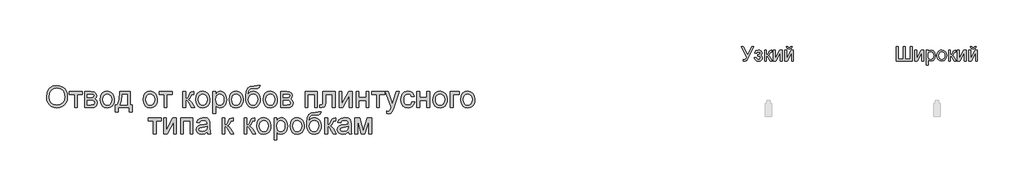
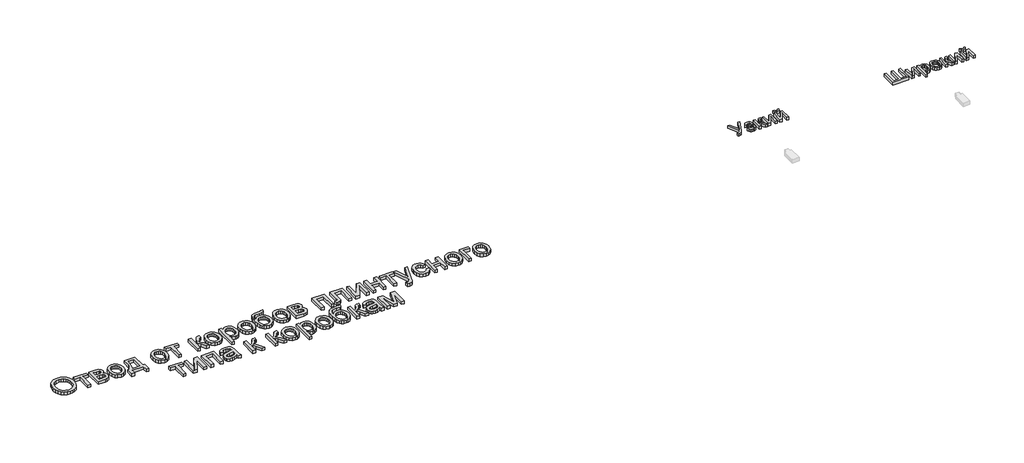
# One storey, part 7 of 48: 3 proxies.
"""IFC4 building model written with IfcOpenShell, lengths in millimetres."""

from ifc_helpers import new_model, si_unit, origin, origin_with_axes, place, context, project, spatial, polyline, outline, extrude, element, save

model = new_model("IFC4")

# Units and contexts
model_context = context("Model", 3, world=origin())
ifc_project = project(units=[si_unit("LENGTHUNIT", "METRE", prefix="MILLI")], contexts=[model_context])

# Site, building, storey
site = spatial("IfcSite", under=ifc_project)
building = spatial("IfcBuilding", under=site)
storey = spatial("IfcBuildingStorey", under=building, Name="Этаж 01", Elevation=0.0)

# Proxies
placement = place(None, origin())
element("IfcBuildingElementProxy", 1, Name="150 мм Arial", ObjectType="150 мм Arial", at=placement, inside=storey, context=model_context, shape_type="SweptSolid", body=[
    extrude(outline(polyline([(7968.3957636, -26394.3993288), (7973.4173528, -26361.0784171), (7979.6943393, -26347.4598854), (7988.4821205, -26335.8693033), (8011.4839422, -26320.0043923), (8040.3166936, -26314.7160886), (8060.0811538, -26317.1992921), (8077.8038689, -26324.6489025), (8092.5191487, -26336.540688), (8103.261303, -26352.3504167), (8109.8279966, -26371.3147336), (8112.0168945, -26392.6702834), (8109.7130335, -26414.3109418), (8102.8014505, -26433.5419731), (8091.6638231, -26449.379293), (8076.6818288, -26460.8388171), (8059.110865, -26467.7917868), (8040.206329, -26470.1094434), (8020.1383662, -26467.548065), (8002.3144835, -26459.8639298), (7987.6359919, -26447.7514151), (7977.0042022, -26431.9048982), (7970.5478732, -26413.6717468), (7968.3957636, -26394.3993288)]), holes=[polyline([(7987.2313217, -26394.5832698), (7990.9975136, -26418.1553086), (8002.2960894, -26436.117147), (8019.278442, -26447.4847007), (8040.0959644, -26451.2738852), (8061.2169895, -26447.4479125), (8078.2269332, -26435.9699942), (8089.4427355, -26417.4563328), (8093.1813363, -26392.5231306), (8091.5810496, -26375.8488792), (8086.7801896, -26361.437102), (8078.9029164, -26349.6510826), (8068.0733901, -26340.8541044), (8055.0089808, -26335.3772612), (8040.4270582, -26333.5516468), (8020.1659573, -26337.0695183), (8002.9398829, -26347.6231331), (7991.158462, -26366.3989104), (7987.2313217, -26394.5832698)])]), origin_with_axes(), (0.0, 0.0, 1.0), 20.0),
    extrude(outline(polyline([(8126.1435631, -26357.0960945), (8215.6124643, -26357.0960945), (8215.6124643, -26375.9316526), (8180.2957928, -26375.9316526), (8180.2957928, -26467.7549986), (8161.4602346, -26467.7549986), (8161.4602346, -26375.9316526), (8126.1435631, -26375.9316526), (8126.1435631, -26357.0960945)])), origin_with_axes(), (0.0, 0.0, 1.0), 20.0),
    extrude(outline(polyline([(8232.0935777, -26357.0960945), (8273.5906668, -26357.0960945), (8296.3441682, -26359.6160861), (8309.1464616, -26368.8499242), (8314.4991446, -26384.9447615), (8311.2617831, -26398.0229664), (8301.5129102, -26407.348775), (8314.1680508, -26417.5575004), (8319.2080342, -26435.3078066), (8316.0166578, -26449.6644015), (8308.4290917, -26459.7719593), (8296.4177446, -26465.7592388), (8279.9550253, -26467.7549986), (8232.0935777, -26467.7549986), (8232.0935777, -26357.0960945)]), holes=[polyline([(8250.9291359, -26448.9194405), (8274.0321251, -26448.9194405), (8294.5231523, -26445.516532), (8298.7629923, -26440.8766203), (8300.372476, -26433.7627023), (8297.1535085, -26424.6944111), (8288.7657991, -26419.4153044), (8272.1927152, -26418.3116585), (8250.9291359, -26418.3116585), (8250.9291359, -26448.9194405)]), polyline([(8250.9291359, -26399.4761003), (8269.5439648, -26399.4761003), (8284.9030381, -26398.5196071), (8292.3710426, -26394.6936344), (8295.6635865, -26387.7774529), (8294.2196496, -26382.1580554), (8289.8878391, -26378.5436148), (8270.132576, -26375.9316526), (8250.9291359, -26375.9316526), (8250.9291359, -26399.4761003)])]), origin_with_axes(), (0.0, 0.0, 1.0), 20.0),
    extrude(outline(polyline([(8338.0435923, -26412.4255465), (8342.1178854, -26385.7449048), (8354.3407647, -26366.9921201), (8369.4423206, -26357.8042673), (8387.5237207, -26354.7416497), (8407.3111735, -26358.4710534), (8423.1163037, -26369.6592646), (8433.4767804, -26387.4233664), (8436.9302726, -26410.8804422), (8435.4035623, -26429.9091384), (8430.8234315, -26444.3944919), (8423.3232373, -26455.2424122), (8413.036337, -26463.3588088), (8400.8180563, -26468.4217847), (8387.5237207, -26470.1094434), (8367.4971445, -26466.3938352), (8351.7104084, -26455.2470108), (8341.4602963, -26437.1104284), (8338.0435923, -26412.4255465)]), holes=[polyline([(8356.8791505, -26412.3887583), (8359.0588513, -26429.4354903), (8365.5979537, -26441.5801947), (8375.4387971, -26448.8504626), (8387.5237207, -26451.2738852), (8399.5534619, -26448.836667), (8409.3759112, -26441.5250124), (8415.9150136, -26429.2193596), (8418.0947145, -26411.8001471), (8415.9012181, -26395.2500559), (8409.3207289, -26383.2708984), (8399.484484, -26376.0006305), (8387.5237207, -26373.5772078), (8375.4387971, -26375.9914334), (8365.5979537, -26383.2341102), (8359.0588513, -26395.3512234), (8356.8791505, -26412.3887583)])]), origin_with_axes(), (0.0, 0.0, 1.0), 20.0),
    extrude(outline(polyline([(8474.6013889, -26357.0960945), (8545.234732, -26357.0960945), (8545.234732, -26448.9194405), (8559.3614006, -26448.9194405), (8559.3614006, -26498.3627806), (8540.5258425, -26498.3627806), (8540.5258425, -26467.7549986), (8462.8291651, -26467.7549986), (8462.8291651, -26498.3627806), (8443.9936069, -26498.3627806), (8443.9936069, -26448.9194405), (8455.7658308, -26448.9194405), (8464.3236857, -26433.4546011), (8470.3155637, -26412.9957636), (8474.6013889, -26357.0960945)]), holes=[polyline([(8491.0825023, -26375.9316526), (8486.6679184, -26418.8450874), (8476.9558337, -26448.9194405), (8526.3991738, -26448.9194405), (8526.3991738, -26375.9316526), (8491.0825023, -26375.9316526)])]), origin_with_axes(), (0.0, 0.0, 1.0), 20.0),
    extrude(outline(polyline([(8634.7036332, -26412.4255465), (8638.7779263, -26385.7449048), (8651.0008056, -26366.9921201), (8666.1023615, -26357.8042673), (8684.1837616, -26354.7416497), (8703.9712144, -26358.4710534), (8719.7763446, -26369.6592646), (8730.1368213, -26387.4233664), (8733.5903135, -26410.8804422), (8732.0636032, -26429.9091384), (8727.4834724, -26444.3944919), (8719.9832782, -26455.2424122), (8709.6963779, -26463.3588088), (8697.4780972, -26468.4217847), (8684.1837616, -26470.1094434), (8664.1571855, -26466.3938352), (8648.3704493, -26455.2470108), (8638.1203373, -26437.1104284), (8634.7036332, -26412.4255465)]), holes=[polyline([(8653.5391914, -26412.3887583), (8655.7188922, -26429.4354903), (8662.2579947, -26441.5801947), (8672.098838, -26448.8504626), (8684.1837616, -26451.2738852), (8696.2135028, -26448.836667), (8706.0359521, -26441.5250124), (8712.5750545, -26429.2193596), (8714.7547554, -26411.8001471), (8712.561259, -26395.2500559), (8705.9807698, -26383.2708984), (8696.1445249, -26376.0006305), (8684.1837616, -26373.5772078), (8672.098838, -26375.9914334), (8662.2579947, -26383.2341102), (8655.7188922, -26395.3512234), (8653.5391914, -26412.3887583)])]), origin_with_axes(), (0.0, 0.0, 1.0), 20.0),
    extrude(outline(polyline([(8745.3625374, -26357.0960945), (8834.8314386, -26357.0960945), (8834.8314386, -26375.9316526), (8799.5147671, -26375.9316526), (8799.5147671, -26467.7549986), (8780.6792089, -26467.7549986), (8780.6792089, -26375.9316526), (8745.3625374, -26375.9316526), (8745.3625374, -26357.0960945)])), origin_with_axes(), (0.0, 0.0, 1.0), 20.0),
    extrude(outline(polyline([(8910.1736712, -26357.0960945), (8929.0092294, -26357.0960945), (8929.0092294, -26404.1849898), (8941.6275818, -26400.8004755), (8951.9650659, -26381.0820005), (8960.5551104, -26364.0674583), (8968.1334795, -26358.5308342), (8981.9106603, -26357.0960945), (8985.5159038, -26357.0960945), (8985.5159038, -26376.0420172), (8980.4391323, -26375.9316526), (8971.2420824, -26377.9182154), (8964.7673593, -26390.3158386), (8957.1705961, -26403.7251373), (8946.5204123, -26410.291831), (8958.4030008, -26417.6218797), (8970.06486, -26433.0637265), (8990.2247934, -26467.7549986), (8968.8140612, -26467.7549986), (8949.0587981, -26433.7994905), (8939.1259842, -26419.4336985), (8929.0092294, -26415.9572137), (8929.0092294, -26467.7549986), (8910.1736712, -26467.7549986), (8910.1736712, -26357.0960945)])), origin_with_axes(), (0.0, 0.0, 1.0), 20.0),
    extrude(outline(polyline([(8997.2881277, -26412.4255465), (9001.3624208, -26385.7449048), (9013.5853001, -26366.9921201), (9028.686856, -26357.8042673), (9046.768256, -26354.7416497), (9066.5557088, -26358.4710534), (9082.3608391, -26369.6592646), (9092.7213157, -26387.4233664), (9096.174808, -26410.8804422), (9094.6480977, -26429.9091384), (9090.0679669, -26444.3944919), (9082.5677727, -26455.2424122), (9072.2808724, -26463.3588088), (9060.0625916, -26468.4217847), (9046.768256, -26470.1094434), (9026.7416799, -26466.3938352), (9010.9549438, -26455.2470108), (9000.7048317, -26437.1104284), (8997.2881277, -26412.4255465)]), holes=[polyline([(9016.1236858, -26412.3887583), (9018.3033866, -26429.4354903), (9024.8424891, -26441.5801947), (9034.6833325, -26448.8504626), (9046.768256, -26451.2738852), (9058.7979973, -26448.836667), (9068.6204465, -26441.5250124), (9075.159549, -26429.2193596), (9077.3392498, -26411.8001471), (9075.1457534, -26395.2500559), (9068.5652642, -26383.2708984), (9058.7290194, -26376.0006305), (9046.768256, -26373.5772078), (9034.6833325, -26375.9914334), (9024.8424891, -26383.2341102), (9018.3033866, -26395.3512234), (9016.1236858, -26412.3887583)])]), origin_with_axes(), (0.0, 0.0, 1.0), 20.0),
    extrude(outline(polyline([(9117.3648109, -26510.1350045), (9117.3648109, -26357.0960945), (9136.200369, -26357.0960945), (9136.200369, -26375.5637706), (9149.2233917, -26359.9471799), (9166.808151, -26354.7416497), (9179.5460651, -26356.5626656), (9190.6836925, -26362.0257132), (9199.7519837, -26370.7996988), (9206.2818891, -26382.5535285), (9211.5426017, -26411.5794179), (9210.0572781, -26427.6880508), (9205.6013074, -26442.0952294), (9198.3172439, -26454.0697884), (9188.3476419, -26462.8805622), (9176.7363664, -26468.3022231), (9164.5272827, -26470.1094434), (9148.1381398, -26465.2717951), (9136.200369, -26453.0397188), (9136.200369, -26510.1350045), (9117.3648109, -26510.1350045)]), holes=[polyline([(9136.200369, -26413.3084633), (9138.2375156, -26430.1942469), (9144.3489552, -26442.0032589), (9153.3666626, -26448.9562287), (9164.1226125, -26451.2738852), (9175.0533063, -26448.8734552), (9184.3009399, -26441.6721652), (9190.6055176, -26429.4308918), (9192.7070435, -26411.9105117), (9190.6561014, -26395.1166987), (9184.503275, -26383.1421397), (9175.4993632, -26375.9684408), (9164.8951647, -26373.5772078), (9154.2495794, -26376.1201921), (9144.9007782, -26383.749145), (9138.3754713, -26396.2249432), (9136.200369, -26413.3084633)])]), origin_with_axes(), (0.0, 0.0, 1.0), 20.0),
    extrude(outline(polyline([(9228.023715, -26412.4255465), (9232.0980081, -26385.7449048), (9244.3208874, -26366.9921201), (9259.4224433, -26357.8042673), (9277.5038434, -26354.7416497), (9297.2912962, -26358.4710534), (9313.0964264, -26369.6592646), (9323.4569031, -26387.4233664), (9326.9103953, -26410.8804422), (9325.3836851, -26429.9091384), (9320.8035542, -26444.3944919), (9313.30336, -26455.2424122), (9303.0164598, -26463.3588088), (9290.798179, -26468.4217847), (9277.5038434, -26470.1094434), (9257.4772673, -26466.3938352), (9241.6905312, -26455.2470108), (9231.4404191, -26437.1104284), (9228.023715, -26412.4255465)]), holes=[polyline([(9246.8592732, -26412.3887583), (9249.038974, -26429.4354903), (9255.5780765, -26441.5801947), (9265.4189199, -26448.8504626), (9277.5038434, -26451.2738852), (9289.5335846, -26448.836667), (9299.3560339, -26441.5250124), (9305.8951364, -26429.2193596), (9308.0748372, -26411.8001471), (9305.8813408, -26395.2500559), (9299.3008516, -26383.2708984), (9289.4646068, -26376.0006305), (9277.5038434, -26373.5772078), (9265.4189199, -26375.9914334), (9255.5780765, -26383.2341102), (9249.038974, -26395.3512234), (9246.8592732, -26412.3887583)])]), origin_with_axes(), (0.0, 0.0, 1.0), 20.0),
    extrude(outline(polyline([(9425.7970756, -26314.7160886), (9442.278189, -26314.7160886), (9437.4221467, -26329.4129743), (9427.8204266, -26334.7288692), (9404.7542255, -26335.9060915), (9373.686591, -26340.2470991), (9366.5588774, -26345.8940877), (9361.7672144, -26354.1530385), (9357.7389065, -26378.764344), (9374.054473, -26360.7381262), (9383.9734913, -26356.2407688), (9395.0789291, -26354.7416497), (9414.6778423, -26358.5538269), (9430.5795416, -26369.9903584), (9441.1193607, -26387.9292042), (9444.6326338, -26411.2483242), (9442.8897928, -26429.2285567), (9437.66127, -26443.6587279), (9421.1249743, -26463.211656), (9409.8309971, -26468.3849965), (9395.0789291, -26470.1094434), (9378.0781823, -26467.8883558), (9365.3356697, -26461.2250932), (9355.9592774, -26451.0991413), (9349.0568915, -26438.4899859), (9344.8078544, -26419.5026764), (9343.3915087, -26390.2422622), (9346.9645626, -26354.1024547), (9357.6837242, -26332.0617247), (9375.8157081, -26320.8183312), (9401.6272286, -26317.0705334), (9422.5965023, -26316.6474691), (9425.7970756, -26314.7160886)]), holes=[polyline([(9425.7970756, -26410.659713), (9423.7553306, -26395.8386671), (9417.6300954, -26383.9698742), (9407.789252, -26376.1753744), (9394.6006825, -26373.5772078), (9380.8510929, -26376.3225272), (9370.6515646, -26384.5584854), (9364.3331913, -26397.3837715), (9362.2270669, -26413.8970745), (9364.5539205, -26429.9045398), (9371.5344814, -26441.6537711), (9381.9271477, -26448.8688567), (9394.4903179, -26451.2738852), (9407.1178673, -26448.4917776), (9417.1150606, -26440.1454549), (9423.6265719, -26427.2098042), (9425.7970756, -26410.659713)])]), origin_with_axes(), (0.0, 0.0, 1.0), 20.0),
    extrude(outline(polyline([(9463.468192, -26412.4255465), (9467.5424851, -26385.7449048), (9479.7653643, -26366.9921201), (9494.8669202, -26357.8042673), (9512.9483203, -26354.7416497), (9532.7357731, -26358.4710534), (9548.5409033, -26369.6592646), (9558.90138, -26387.4233664), (9562.3548723, -26410.8804422), (9560.828162, -26429.9091384), (9556.2480311, -26444.3944919), (9548.747837, -26455.2424122), (9538.4609367, -26463.3588088), (9526.2426559, -26468.4217847), (9512.9483203, -26470.1094434), (9492.9217442, -26466.3938352), (9477.1350081, -26455.2470108), (9466.884896, -26437.1104284), (9463.468192, -26412.4255465)]), holes=[polyline([(9482.3037501, -26412.3887583), (9484.4834509, -26429.4354903), (9491.0225534, -26441.5801947), (9500.8633968, -26448.8504626), (9512.9483203, -26451.2738852), (9524.9780615, -26448.836667), (9534.8005108, -26441.5250124), (9541.3396133, -26429.2193596), (9543.5193141, -26411.8001471), (9541.3258177, -26395.2500559), (9534.7453285, -26383.2708984), (9524.9090837, -26376.0006305), (9512.9483203, -26373.5772078), (9500.8633968, -26375.9914334), (9491.0225534, -26383.2341102), (9484.4834509, -26395.3512234), (9482.3037501, -26412.3887583)])]), origin_with_axes(), (0.0, 0.0, 1.0), 20.0),
    extrude(outline(polyline([(9583.5448752, -26357.0960945), (9625.0419642, -26357.0960945), (9647.7954656, -26359.6160861), (9660.5977591, -26368.8499242), (9665.9504421, -26384.9447615), (9662.7130805, -26398.0229664), (9652.9642077, -26407.348775), (9665.6193483, -26417.5575004), (9670.6593316, -26435.3078066), (9667.4679553, -26449.6644015), (9659.8803892, -26459.7719593), (9647.869042, -26465.7592388), (9631.4063228, -26467.7549986), (9583.5448752, -26467.7549986), (9583.5448752, -26357.0960945)]), holes=[polyline([(9602.3804333, -26399.4761003), (9620.9952623, -26399.4761003), (9636.3543356, -26398.5196071), (9643.8223401, -26394.6936344), (9647.1148839, -26387.7774529), (9645.6709471, -26382.1580554), (9641.3391366, -26378.5436148), (9621.5838735, -26375.9316526), (9602.3804333, -26375.9316526), (9602.3804333, -26399.4761003)]), polyline([(9602.3804333, -26448.9194405), (9625.4834226, -26448.9194405), (9645.9744498, -26445.516532), (9650.2142898, -26440.8766203), (9651.8237735, -26433.7627023), (9648.604806, -26424.6944111), (9640.2170965, -26419.4153044), (9623.6440127, -26418.3116585), (9602.3804333, -26418.3116585), (9602.3804333, -26448.9194405)])]), origin_with_axes(), (0.0, 0.0, 1.0), 20.0),
    extrude(outline(polyline([(9753.0648986, -26357.0960945), (9837.8249102, -26357.0960945), (9837.8249102, -26467.7549986), (9818.9893521, -26467.7549986), (9818.9893521, -26375.9316526), (9771.9004567, -26375.9316526), (9771.9004567, -26467.7549986), (9753.0648986, -26467.7549986), (9753.0648986, -26357.0960945)])), origin_with_axes(), (0.0, 0.0, 1.0), 20.0),
    extrude(outline(polyline([(9875.4960266, -26357.0960945), (9960.2560382, -26357.0960945), (9960.2560382, -26467.644634), (9941.4204801, -26467.644634), (9941.4204801, -26375.9316526), (9894.3315847, -26375.9316526), (9894.3315847, -26428.7227189), (9893.0623918, -26453.076507), (9886.091028, -26463.3588088), (9869.6099146, -26467.7549986), (9854.3060236, -26466.7985054), (9854.3060236, -26448.9194405), (9862.7305213, -26448.9194405), (9871.2469895, -26447.7606122), (9874.649898, -26444.0817922), (9875.4960266, -26427.6558611), (9875.4960266, -26357.0960945)])), origin_with_axes(), (0.0, 0.0, 1.0), 20.0),
    extrude(outline(polyline([(9988.5093755, -26357.0960945), (10007.3449336, -26357.0960945), (10007.3449336, -26441.4882242), (10053.6244886, -26357.0960945), (10077.9782767, -26357.0960945), (10077.9782767, -26467.7549986), (10059.1427185, -26467.7549986), (10059.1427185, -26383.8779037), (10013.1574691, -26467.7549986), (9988.5093755, -26467.7549986), (9988.5093755, -26357.0960945)])), origin_with_axes(), (0.0, 0.0, 1.0), 20.0),
    extrude(outline(polyline([(10106.2316139, -26357.0960945), (10125.0671721, -26357.0960945), (10125.0671721, -26399.4761003), (10174.5105122, -26399.4761003), (10174.5105122, -26357.0960945), (10193.3460704, -26357.0960945), (10193.3460704, -26467.7549986), (10174.5105122, -26467.7549986), (10174.5105122, -26418.3116585), (10125.0671721, -26418.3116585), (10125.0671721, -26467.7549986), (10106.2316139, -26467.7549986), (10106.2316139, -26357.0960945)])), origin_with_axes(), (0.0, 0.0, 1.0), 20.0),
    extrude(outline(polyline([(10212.1816285, -26357.0960945), (10301.6505298, -26357.0960945), (10301.6505298, -26375.9316526), (10266.3338582, -26375.9316526), (10266.3338582, -26467.7549986), (10247.4983001, -26467.7549986), (10247.4983001, -26375.9316526), (10212.1816285, -26375.9316526), (10212.1816285, -26357.0960945)])), origin_with_axes(), (0.0, 0.0, 1.0), 20.0),
    extrude(outline(polyline([(10318.1316431, -26510.1350045), (10315.7771984, -26491.9984221), (10325.3421303, -26493.6538911), (10334.2816627, -26491.5753578), (10339.7631045, -26485.7812164), (10344.9134524, -26471.9120652), (10346.3849804, -26467.3503284), (10306.3594193, -26357.0960945), (10326.225047, -26357.0960945), (10347.4518382, -26418.5323877), (10354.8462663, -26443.1069049), (10362.2406944, -26421.4018672), (10384.0560967, -26357.0960945), (10403.7745716, -26357.0960945), (10365.2573267, -26470.403749), (10355.2509365, -26494.9782663), (10344.3248412, -26508.2588063), (10329.6463496, -26512.4894492), (10318.1316431, -26510.1350045)])), origin_with_axes(), (0.0, 0.0, 1.0), 20.0),
    extrude(outline(polyline([(10490.0061113, -26427.7294375), (10508.8416694, -26430.0838823), (10503.590154, -26446.8363087), (10493.7217194, -26459.4960478), (10480.1652679, -26467.4560945), (10463.8497014, -26470.1094434), (10443.8139283, -26466.4076308), (10428.1467538, -26455.3021931), (10418.0345975, -26437.2805738), (10414.6638787, -26412.8302167), (10416.103217, -26396.0685933), (10420.4212319, -26381.541853), (10427.6869013, -26369.8110159), (10437.9692031, -26361.437102), (10450.2702573, -26356.4155128), (10463.592184, -26354.7416497), (10479.5076789, -26357.0409122), (10492.2317974, -26363.9386996), (10501.3598694, -26375.0671299), (10506.4872247, -26390.0583212), (10487.6516665, -26392.412766), (10478.9144691, -26378.3044915), (10463.7393368, -26373.5772078), (10451.5670413, -26375.9040615), (10441.9055404, -26382.8846223), (10435.6009627, -26394.8959695), (10433.4994368, -26412.3151819), (10435.5549775, -26429.9689192), (10441.7215994, -26442.021653), (10451.2083564, -26448.9608272), (10463.224302, -26451.2738852), (10472.9777734, -26449.8299484), (10480.9746083, -26445.4981379), (10486.7917424, -26438.1680891), (10490.0061113, -26427.7294375)])), origin_with_axes(), (0.0, 0.0, 1.0), 20.0),
    extrude(outline(polyline([(10525.3227828, -26357.0960945), (10544.158341, -26357.0960945), (10544.158341, -26399.4761003), (10593.6016811, -26399.4761003), (10593.6016811, -26357.0960945), (10612.4372393, -26357.0960945), (10612.4372393, -26467.7549986), (10593.6016811, -26467.7549986), (10593.6016811, -26418.3116585), (10544.158341, -26418.3116585), (10544.158341, -26467.7549986), (10525.3227828, -26467.7549986), (10525.3227828, -26357.0960945)])), origin_with_axes(), (0.0, 0.0, 1.0), 20.0),
    extrude(outline(polyline([(10635.981687, -26412.4255465), (10640.0559801, -26385.7449048), (10652.2788594, -26366.9921201), (10667.3804153, -26357.8042673), (10685.4618153, -26354.7416497), (10705.2492681, -26358.4710534), (10721.0543984, -26369.6592646), (10731.4148751, -26387.4233664), (10734.8683673, -26410.8804422), (10733.341657, -26429.9091384), (10728.7615262, -26444.3944919), (10721.261332, -26455.2424122), (10710.9744317, -26463.3588088), (10698.7561509, -26468.4217847), (10685.4618153, -26470.1094434), (10665.4352392, -26466.3938352), (10649.6485031, -26455.2470108), (10639.398391, -26437.1104284), (10635.981687, -26412.4255465)]), holes=[polyline([(10654.8172451, -26412.3887583), (10656.996946, -26429.4354903), (10663.5360484, -26441.5801947), (10673.3768918, -26448.8504626), (10685.4618153, -26451.2738852), (10697.4915566, -26448.836667), (10707.3140058, -26441.5250124), (10713.8531083, -26429.2193596), (10716.0328091, -26411.8001471), (10713.8393127, -26395.2500559), (10707.2588235, -26383.2708984), (10697.4225787, -26376.0006305), (10685.4618153, -26373.5772078), (10673.3768918, -26375.9914334), (10663.5360484, -26383.2341102), (10656.996946, -26395.3512234), (10654.8172451, -26412.3887583)])]), origin_with_axes(), (0.0, 0.0, 1.0), 20.0),
    extrude(outline(polyline([(10756.0583702, -26357.0960945), (10817.2739342, -26357.0960945), (10817.2739342, -26375.9316526), (10774.8939284, -26375.9316526), (10774.8939284, -26467.7549986), (10756.0583702, -26467.7549986), (10756.0583702, -26357.0960945)])), origin_with_axes(), (0.0, 0.0, 1.0), 20.0),
    extrude(outline(polyline([(10826.6917133, -26412.4255465), (10830.7660064, -26385.7449048), (10842.9888857, -26366.9921201), (10858.0904416, -26357.8042673), (10876.1718416, -26354.7416497), (10895.9592944, -26358.4710534), (10911.7644247, -26369.6592646), (10922.1249014, -26387.4233664), (10925.5783936, -26410.8804422), (10924.0516833, -26429.9091384), (10919.4715525, -26444.3944919), (10911.9713583, -26455.2424122), (10901.684458, -26463.3588088), (10889.4661772, -26468.4217847), (10876.1718416, -26470.1094434), (10856.1452655, -26466.3938352), (10840.3585294, -26455.2470108), (10830.1084173, -26437.1104284), (10826.6917133, -26412.4255465)]), holes=[polyline([(10845.5272714, -26412.3887583), (10847.7069723, -26429.4354903), (10854.2460747, -26441.5801947), (10864.0869181, -26448.8504626), (10876.1718416, -26451.2738852), (10888.2015829, -26448.836667), (10898.0240321, -26441.5250124), (10904.5631346, -26429.2193596), (10906.7428354, -26411.8001471), (10904.549339, -26395.2500559), (10897.9688498, -26383.2708984), (10888.132605, -26376.0006305), (10876.1718416, -26373.5772078), (10864.0869181, -26375.9914334), (10854.2460747, -26383.2341102), (10847.7069723, -26395.3512234), (10845.5272714, -26412.3887583)])]), origin_with_axes(), (0.0, 0.0, 1.0), 20.0),
    extrude(outline(polyline([(8670.0203048, -26540.0583212), (8759.489206, -26540.0583212), (8759.489206, -26558.8938794), (8724.1725344, -26558.8938794), (8724.1725344, -26650.7172254), (8705.3369763, -26650.7172254), (8705.3369763, -26558.8938794), (8670.0203048, -26558.8938794), (8670.0203048, -26540.0583212)])), origin_with_axes(), (0.0, 0.0, 1.0), 20.0),
    extrude(outline(polyline([(8775.9703194, -26540.0583212), (8794.8058775, -26540.0583212), (8794.8058775, -26624.4504509), (8841.0854325, -26540.0583212), (8865.4392206, -26540.0583212), (8865.4392206, -26650.7172254), (8846.6036624, -26650.7172254), (8846.6036624, -26566.8401305), (8800.618413, -26650.7172254), (8775.9703194, -26650.7172254), (8775.9703194, -26540.0583212)])), origin_with_axes(), (0.0, 0.0, 1.0), 20.0),
    extrude(outline(polyline([(8893.6925578, -26540.0583212), (8978.4525695, -26540.0583212), (8978.4525695, -26650.7172254), (8959.6170114, -26650.7172254), (8959.6170114, -26558.8938794), (8912.528116, -26558.8938794), (8912.528116, -26650.7172254), (8893.6925578, -26650.7172254), (8893.6925578, -26540.0583212)])), origin_with_axes(), (0.0, 0.0, 1.0), 20.0),
    extrude(outline(polyline([(9077.3392498, -26636.5905568), (9059.0739088, -26649.356062), (9038.8955813, -26653.0716701), (9023.1548305, -26650.836787), (9011.543555, -26644.1321377), (9004.3836516, -26633.9510034), (9001.9970172, -26621.2866658), (9005.6022608, -26606.387445), (9015.0752221, -26595.5717143), (9028.2637917, -26589.3912968), (9044.560964, -26586.5586054), (9077.2288852, -26580.0838823), (9077.3392498, -26575.8900276), (9076.0424658, -26567.483924), (9072.1521137, -26561.9840881), (9063.4517045, -26557.900598), (9051.3299928, -26556.5394346), (9032.2737054, -26560.1630723), (9023.1870201, -26573.020548), (9004.351462, -26570.6661032), (9012.5000482, -26552.2720035), (9028.9075852, -26541.493061), (9053.7580139, -26537.7038765), (9076.5850917, -26541.0516026), (9089.4793557, -26549.4577062), (9095.255103, -26562.2416055), (9096.174808, -26578.7227189), (9096.174808, -26602.156802), (9097.1313012, -26634.8799055), (9100.8836975, -26650.7172254), (9082.0481394, -26650.7172254), (9077.3392498, -26636.5905568)]), holes=[polyline([(9077.3392498, -26598.9194405), (9046.952197, -26604.6951878), (9030.7469951, -26607.7486083), (9023.4077493, -26612.7150153), (9020.8325754, -26619.9622906), (9026.4427758, -26630.1526218), (9042.9054951, -26634.236112), (9061.9617824, -26629.7295576), (9074.2490411, -26618.8218564), (9077.2288852, -26604.2537294), (9077.3392498, -26598.9194405)])]), origin_with_axes(), (0.0, 0.0, 1.0), 20.0),
    extrude(outline(polyline([(9180.9348197, -26540.0583212), (9199.7703778, -26540.0583212), (9199.7703778, -26587.1472166), (9212.3887302, -26583.7627023), (9222.7262143, -26564.0442273), (9231.3162589, -26547.029685), (9238.894628, -26541.493061), (9252.6718087, -26540.0583212), (9256.2770523, -26540.0583212), (9256.2770523, -26559.004244), (9251.2002807, -26558.8938794), (9242.0032309, -26560.8804422), (9235.5285077, -26573.2780654), (9227.9317445, -26586.6873641), (9217.2815608, -26593.2540577), (9229.1641492, -26600.5841065), (9240.8260085, -26616.0259532), (9260.9859418, -26650.7172254), (9239.5752097, -26650.7172254), (9219.8199465, -26616.7617172), (9209.8871327, -26602.3959253), (9199.7703778, -26598.9194405), (9199.7703778, -26650.7172254), (9180.9348197, -26650.7172254), (9180.9348197, -26540.0583212)])), origin_with_axes(), (0.0, 0.0, 1.0), 20.0),
    extrude(outline(polyline([(9331.6192849, -26540.0583212), (9350.454843, -26540.0583212), (9350.454843, -26587.1472166), (9363.0731955, -26583.7627023), (9373.4106795, -26564.0442273), (9382.0007241, -26547.029685), (9389.5790932, -26541.493061), (9403.3562739, -26540.0583212), (9406.9615175, -26540.0583212), (9406.9615175, -26559.004244), (9401.884746, -26558.8938794), (9392.6876961, -26560.8804422), (9386.212973, -26573.2780654), (9378.6162098, -26586.6873641), (9367.966026, -26593.2540577), (9379.8486145, -26600.5841065), (9391.5104737, -26616.0259532), (9411.670407, -26650.7172254), (9390.2596749, -26650.7172254), (9370.5044118, -26616.7617172), (9360.5715979, -26602.3959253), (9350.454843, -26598.9194405), (9350.454843, -26650.7172254), (9331.6192849, -26650.7172254), (9331.6192849, -26540.0583212)])), origin_with_axes(), (0.0, 0.0, 1.0), 20.0),
    extrude(outline(polyline([(9418.7337413, -26595.3877733), (9422.8080344, -26568.7071316), (9435.0309137, -26549.9543469), (9450.1324696, -26540.7664941), (9468.2138697, -26537.7038765), (9488.0013225, -26541.4332802), (9503.8064527, -26552.6214914), (9514.1669294, -26570.3855932), (9517.6204216, -26593.8426689), (9516.0937114, -26612.8713651), (9511.5135805, -26627.3567187), (9504.0133863, -26638.204639), (9493.7264861, -26646.3210355), (9481.5082053, -26651.3840115), (9468.2138697, -26653.0716701), (9448.1872936, -26649.356062), (9432.4005575, -26638.2092375), (9422.1504454, -26620.0726552), (9418.7337413, -26595.3877733)]), holes=[polyline([(9437.5692995, -26595.3509851), (9439.7490003, -26612.3977171), (9446.2881028, -26624.5424214), (9456.1289462, -26631.8126894), (9468.2138697, -26634.236112), (9480.2436109, -26631.7988938), (9490.0660602, -26624.4872391), (9496.6051627, -26612.1815864), (9498.7848635, -26594.7623739), (9496.5913671, -26578.2122827), (9490.0108779, -26566.2331252), (9480.1746331, -26558.9628573), (9468.2138697, -26556.5394346), (9456.1289462, -26558.9536602), (9446.2881028, -26566.196337), (9439.7490003, -26578.3134502), (9437.5692995, -26595.3509851)])]), origin_with_axes(), (0.0, 0.0, 1.0), 20.0),
    extrude(outline(polyline([(9538.8104246, -26693.0972312), (9538.8104246, -26540.0583212), (9557.6459827, -26540.0583212), (9557.6459827, -26558.5259974), (9570.6690053, -26542.9094067), (9588.2537647, -26537.7038765), (9600.9916788, -26539.5248923), (9612.1293062, -26544.98794), (9621.1975974, -26553.7619255), (9627.7275028, -26565.5157553), (9632.9882153, -26594.5416447), (9631.5028918, -26610.6502776), (9627.0469211, -26625.0574562), (9619.7628576, -26637.0320152), (9609.7932555, -26645.8427889), (9598.1819801, -26651.2644498), (9585.9728963, -26653.0716701), (9569.5837535, -26648.2340219), (9557.6459827, -26636.0019456), (9557.6459827, -26693.0972312), (9538.8104246, -26693.0972312)]), holes=[polyline([(9557.6459827, -26596.2706901), (9559.6831293, -26613.1564737), (9565.7945689, -26624.9654857), (9574.8122763, -26631.9184554), (9585.5682262, -26634.236112), (9596.4989199, -26631.835682), (9605.7465536, -26624.6343919), (9612.0511313, -26612.3931185), (9614.1526572, -26594.8727385), (9612.1017151, -26578.0789254), (9605.9488887, -26566.1043665), (9596.9449769, -26558.9306676), (9586.3407783, -26556.5394346), (9575.6951931, -26559.0824189), (9566.3463919, -26566.7113718), (9559.821085, -26579.1871699), (9557.6459827, -26596.2706901)])]), origin_with_axes(), (0.0, 0.0, 1.0), 20.0),
    extrude(outline(polyline([(9649.4693287, -26595.3877733), (9653.5436218, -26568.7071316), (9665.7665011, -26549.9543469), (9680.868057, -26540.7664941), (9698.9494571, -26537.7038765), (9718.7369099, -26541.4332802), (9734.5420401, -26552.6214914), (9744.9025168, -26570.3855932), (9748.356009, -26593.8426689), (9746.8292987, -26612.8713651), (9742.2491679, -26627.3567187), (9734.7489737, -26638.204639), (9724.4620734, -26646.3210355), (9712.2437927, -26651.3840115), (9698.9494571, -26653.0716701), (9678.922881, -26649.356062), (9663.1361448, -26638.2092375), (9652.8860327, -26620.0726552), (9649.4693287, -26595.3877733)]), holes=[polyline([(9668.3048869, -26595.3509851), (9670.4845877, -26612.3977171), (9677.0236902, -26624.5424214), (9686.8645335, -26631.8126894), (9698.9494571, -26634.236112), (9710.9791983, -26631.7988938), (9720.8016476, -26624.4872391), (9727.34075, -26612.1815864), (9729.5204509, -26594.7623739), (9727.3269545, -26578.2122827), (9720.7464653, -26566.2331252), (9710.9102204, -26558.9628573), (9698.9494571, -26556.5394346), (9686.8645335, -26558.9536602), (9677.0236902, -26566.196337), (9670.4845877, -26578.3134502), (9668.3048869, -26595.3509851)])]), origin_with_axes(), (0.0, 0.0, 1.0), 20.0),
    extrude(outline(polyline([(9847.2426893, -26497.6783154), (9863.7238027, -26497.6783154), (9858.8677604, -26512.3752011), (9849.2660403, -26517.6910959), (9826.1998392, -26518.8683183), (9795.1322047, -26523.2093258), (9788.004491, -26528.8563145), (9783.2128281, -26537.1152653), (9779.1845202, -26561.7265707), (9795.5000867, -26543.700353), (9805.419105, -26539.2029956), (9816.5245427, -26537.7038765), (9836.123456, -26541.5160536), (9852.0251553, -26552.9525852), (9862.5649744, -26570.8914309), (9866.0782475, -26594.2105509), (9864.3354065, -26612.1907834), (9859.1068837, -26626.6209547), (9842.570588, -26646.1738827), (9831.2766107, -26651.3472233), (9816.5245427, -26653.0716701), (9799.523796, -26650.8505826), (9786.7812834, -26644.18732), (9777.4048911, -26634.061368), (9770.5025051, -26621.4522127), (9766.2534681, -26602.4649032), (9764.8371224, -26573.204489), (9768.4101763, -26537.0646815), (9779.1293379, -26515.0239515), (9797.2613218, -26503.780558), (9823.0728422, -26500.0327602), (9844.042116, -26499.6096959), (9847.2426893, -26497.6783154)]), holes=[polyline([(9847.2426893, -26593.6219397), (9845.2009442, -26578.8008938), (9839.075709, -26566.932101), (9829.2348657, -26559.1376012), (9816.0462961, -26556.5394346), (9802.2967066, -26559.284754), (9792.0971782, -26567.5207122), (9785.778805, -26580.3459982), (9783.6726806, -26596.8593013), (9785.9995342, -26612.8667666), (9792.980095, -26624.6159978), (9803.3727614, -26631.8310835), (9815.9359315, -26634.236112), (9828.563481, -26631.4540044), (9838.5606742, -26623.1076816), (9845.0721856, -26610.172031), (9847.2426893, -26593.6219397)])]), origin_with_axes(), (0.0, 0.0, 1.0), 20.0),
    extrude(outline(polyline([(9889.6226952, -26540.0583212), (9908.4582533, -26540.0583212), (9908.4582533, -26587.1472166), (9921.0766058, -26583.7627023), (9931.4140898, -26564.0442273), (9940.0041344, -26547.029685), (9947.5825035, -26541.493061), (9961.3596842, -26540.0583212), (9964.9649278, -26540.0583212), (9964.9649278, -26559.004244), (9959.8881562, -26558.8938794), (9950.6911064, -26560.8804422), (9944.2163833, -26573.2780654), (9936.6196201, -26586.6873641), (9925.9694363, -26593.2540577), (9937.8520247, -26600.5841065), (9949.513884, -26616.0259532), (9969.6738173, -26650.7172254), (9948.2630852, -26650.7172254), (9928.5078221, -26616.7617172), (9918.5750082, -26602.3959253), (9908.4582533, -26598.9194405), (9908.4582533, -26650.7172254), (9889.6226952, -26650.7172254), (9889.6226952, -26540.0583212)])), origin_with_axes(), (0.0, 0.0, 1.0), 20.0),
    extrude(outline(polyline([(10052.0793842, -26636.5905568), (10033.8140432, -26649.356062), (10013.6357157, -26653.0716701), (9997.8949649, -26650.836787), (9986.2836894, -26644.1321377), (9979.1237861, -26633.9510034), (9976.7371516, -26621.2866658), (9980.3423952, -26606.387445), (9989.8153566, -26595.5717143), (10003.0039261, -26589.3912968), (10019.3010985, -26586.5586054), (10051.9690196, -26580.0838823), (10052.0793842, -26575.8900276), (10050.7826002, -26567.483924), (10046.8922481, -26561.9840881), (10038.1918389, -26557.900598), (10026.0701272, -26556.5394346), (10007.0138398, -26560.1630723), (9997.9271545, -26573.020548), (9979.0915964, -26570.6661032), (9987.2401826, -26552.2720035), (10003.6477196, -26541.493061), (10028.4981483, -26537.7038765), (10051.3252261, -26541.0516026), (10064.2194901, -26549.4577062), (10069.9952374, -26562.2416055), (10070.9149424, -26578.7227189), (10070.9149424, -26602.156802), (10071.8714356, -26634.8799055), (10075.6238319, -26650.7172254), (10056.7882738, -26650.7172254), (10052.0793842, -26636.5905568)]), holes=[polyline([(10052.0793842, -26598.9194405), (10021.6923314, -26604.6951878), (10005.4871295, -26607.7486083), (9998.1478837, -26612.7150153), (9995.5727098, -26619.9622906), (10001.1829102, -26630.1526218), (10017.6456295, -26634.236112), (10036.7019168, -26629.7295576), (10048.9891755, -26618.8218564), (10051.9690196, -26604.2537294), (10052.0793842, -26598.9194405)])]), origin_with_axes(), (0.0, 0.0, 1.0), 20.0),
    extrude(outline(polyline([(10096.8138349, -26540.0583212), (10129.2242386, -26540.0583212), (10154.2034261, -26628.6443057), (10181.1323881, -26540.0583212), (10212.1816285, -26540.0583212), (10212.1816285, -26650.7172254), (10193.3460704, -26650.7172254), (10193.3460704, -26561.6162061), (10166.2699555, -26650.7172254), (10141.5482855, -26650.7172254), (10115.649393, -26557.348775), (10115.649393, -26650.7172254), (10096.8138349, -26650.7172254), (10096.8138349, -26540.0583212)])), origin_with_axes(), (0.0, 0.0, 1.0), 20.0),
])
element("IfcBuildingElementProxy", 2, Name="100 мм Arial", ObjectType="100 мм Arial", at=placement, inside=storey, context=model_context, shape_type="SweptSolid", body=[
    extrude(outline(polyline([(12765.866314, -26044.4807312), (12779.7722534, -26044.4807312), (12809.8159497, -26103.9795125), (12836.8430136, -26044.4807312), (12850.6263257, -26044.4807312), (12812.4892255, -26122.7414943), (12802.1149532, -26141.9694599), (12790.5144076, -26146.5066712), (12779.2081677, -26144.9370413), (12779.2081677, -26133.9496324), (12789.0919306, -26133.9496324), (12796.425045, -26131.1537292), (12803.2185992, -26118.4250122), (12765.866314, -26044.4807312)])), origin_with_axes(), (0.0, 0.0, 1.0), 20.0),
    extrude(outline(polyline([(12878.094848, -26111.9748145), (12878.094848, -26099.4177758), (12888.0031364, -26098.9272664), (12893.0063315, -26096.3153043), (12895.3607763, -26090.858388), (12892.2092538, -26084.518555), (12884.0790618, -26082.1518475), (12875.6790895, -26084.5062922), (12870.2466987, -26091.5696265), (12856.1200301, -26089.9999967), (12865.5623347, -26074.6961057), (12882.8037375, -26069.5948087), (12893.3006371, -26071.1491101), (12901.2468882, -26075.8120144), (12906.2500833, -26082.6331597), (12907.917815, -26090.6621843), (12905.5449762, -26098.4612826), (12898.4264596, -26104.4945473), (12906.7283299, -26112.3181711), (12909.4874449, -26123.5753601), (12907.7369397, -26132.8183952), (12902.4854242, -26140.1423126), (12894.0885177, -26144.9155815), (12882.9018394, -26146.5066712), (12871.9604157, -26145.0351432), (12863.5880346, -26140.6205592), (12857.7846962, -26133.2629193), (12854.5504003, -26122.9622235), (12868.6770689, -26121.3925936), (12874.3424516, -26130.6632199), (12884.1035872, -26133.9496324), (12893.2761116, -26130.79811), (12896.9304061, -26122.7414943), (12894.6618005, -26116.1441438), (12889.8302836, -26112.6124767), (12880.5473946, -26111.9012381), (12878.094848, -26111.9748145)])), origin_with_axes(), (0.0, 0.0, 1.0), 20.0),
    extrude(outline(polyline([(12925.1837434, -26071.1644385), (12937.7407821, -26071.1644385), (12937.7407821, -26102.5570355), (12946.1530171, -26100.3006926), (12953.0446731, -26087.1550426), (12958.7713695, -26075.8120144), (12963.8236156, -26072.1209317), (12973.0084027, -26071.1644385), (12975.4118984, -26071.1644385), (12975.4118984, -26083.7950537), (12972.0273841, -26083.7214773), (12965.8960175, -26085.0458525), (12961.5795354, -26093.3109346), (12956.5150266, -26102.2504671), (12949.4149041, -26106.6282629), (12957.3366297, -26111.514962), (12965.1112026, -26121.8095265), (12978.5511581, -26144.9370413), (12964.2773367, -26144.9370413), (12951.1071613, -26122.3000359), (12944.4852854, -26112.7228413), (12937.7407821, -26110.4051847), (12937.7407821, -26144.9370413), (12925.1837434, -26144.9370413), (12925.1837434, -26071.1644385)])), origin_with_axes(), (0.0, 0.0, 1.0), 20.0),
    extrude(outline(polyline([(12986.3993073, -26071.1644385), (12998.9563461, -26071.1644385), (12998.9563461, -26127.4258583), (13029.8093828, -26071.1644385), (13046.0452415, -26071.1644385), (13046.0452415, -26144.9370413), (13033.4882027, -26144.9370413), (13033.4882027, -26089.018978), (13002.8313698, -26144.9370413), (12986.3993073, -26144.9370413), (12986.3993073, -26071.1644385)])), origin_with_axes(), (0.0, 0.0, 1.0), 20.0),
    extrude(outline(polyline([(13105.6911757, -26044.4807312), (13115.1089547, -26044.4807312), (13109.0143763, -26058.4479842), (13095.4885817, -26063.3162893), (13080.8468782, -26058.4847724), (13074.2985787, -26044.4807312), (13083.7163578, -26044.4807312), (13087.248025, -26051.5563282), (13094.3604102, -26053.8985102), (13102.1595085, -26051.6299046), (13105.6911757, -26044.4807312)])), origin_with_axes(), (0.0, 0.0, 1.0), 20.0),
    extrude(outline(polyline([(13064.8807997, -26071.1644385), (13077.4378384, -26071.1644385), (13077.4378384, -26127.4258583), (13108.2908751, -26071.1644385), (13124.5267338, -26071.1644385), (13124.5267338, -26144.9370413), (13111.969695, -26144.9370413), (13111.969695, -26089.018978), (13081.3128621, -26144.9370413), (13064.8807997, -26144.9370413), (13064.8807997, -26071.1644385)])), origin_with_axes(), (0.0, 0.0, 1.0), 20.0),
])
element("IfcBuildingElementProxy", 3, Name="100 мм Arial", ObjectType="100 мм Arial", at=placement, inside=storey, context=model_context, shape_type="SweptSolid", body=[
    extrude(outline(polyline([(13834.5840207, -26044.4807312), (13847.1410595, -26044.4807312), (13847.1410595, -26132.3800025), (13883.2425459, -26132.3800025), (13883.2425459, -26044.4807312), (13895.7995847, -26044.4807312), (13895.7995847, -26132.3800025), (13931.9010712, -26132.3800025), (13931.9010712, -26044.4807312), (13944.4581099, -26044.4807312), (13944.4581099, -26144.9370413), (13834.5840207, -26144.9370413), (13834.5840207, -26044.4807312)])), origin_with_axes(), (0.0, 0.0, 1.0), 20.0),
    extrude(outline(polyline([(13963.2936681, -26071.1644385), (13975.8507069, -26071.1644385), (13975.8507069, -26127.4258583), (14006.7037435, -26071.1644385), (14022.9396022, -26071.1644385), (14022.9396022, -26144.9370413), (14010.3825635, -26144.9370413), (14010.3825635, -26089.018978), (13979.7257305, -26144.9370413), (13963.2936681, -26144.9370413), (13963.2936681, -26071.1644385)])), origin_with_axes(), (0.0, 0.0, 1.0), 20.0),
    extrude(outline(polyline([(14041.7751604, -26173.1903785), (14041.7751604, -26071.1644385), (14054.3321992, -26071.1644385), (14054.3321992, -26083.4762226), (14063.0142142, -26073.0651622), (14074.7373872, -26069.5948087), (14090.6544148, -26074.450851), (14101.0532125, -26088.1360613), (14104.5603542, -26107.4866542), (14100.5994914, -26127.8305285), (14089.0970477, -26141.687417), (14073.2168082, -26146.5066712), (14062.290713, -26143.2815723), (14054.3321992, -26135.1268548), (14054.3321992, -26173.1903785), (14041.7751604, -26173.1903785)]), holes=[polyline([(14054.3321992, -26108.6393511), (14055.6902969, -26119.8965402), (14059.76459, -26127.7692149), (14065.7763949, -26132.404528), (14072.9470281, -26133.9496324), (14080.2341573, -26132.3493457), (14086.3992464, -26127.5484857), (14090.6022982, -26119.3876367), (14092.0033155, -26107.7073834), (14090.6360207, -26096.511508), (14086.5341365, -26088.5284687), (14080.5315286, -26083.7460028), (14073.4620629, -26082.1518475), (14066.3650061, -26083.8471703), (14060.132472, -26088.9331389), (14055.7822674, -26097.2503377), (14054.3321992, -26108.6393511)])]), origin_with_axes(), (0.0, 0.0, 1.0), 20.0),
    extrude(outline(polyline([(14115.5477632, -26108.0507399), (14118.2639586, -26090.2636455), (14126.4125447, -26077.761789), (14136.4802487, -26071.6365538), (14148.5345154, -26069.5948087), (14161.7261506, -26072.0810778), (14172.2629041, -26079.5398853), (14179.1698885, -26091.3826199), (14181.4722167, -26107.0206703), (14177.4009893, -26129.3633702), (14165.5429263, -26142.0062481), (14148.5345154, -26146.5066712), (14135.1834647, -26144.0295991), (14124.6589739, -26136.5983827), (14117.8255658, -26124.5073278), (14115.5477632, -26108.0507399)]), holes=[polyline([(14128.1048019, -26108.0262145), (14129.5579358, -26119.3907024), (14133.9173375, -26127.487172), (14140.4778997, -26132.3340173), (14148.5345154, -26133.9496324), (14156.5543429, -26132.3248202), (14163.1026424, -26127.4503838), (14167.462044, -26119.2466153), (14168.9151779, -26107.633807), (14167.452847, -26096.6004128), (14163.0658542, -26088.6143078), (14156.5083576, -26083.7674626), (14148.5345154, -26082.1518475), (14140.4778997, -26083.7613312), (14133.9173375, -26088.5897824), (14129.5579358, -26096.6678579), (14128.1048019, -26108.0262145)])]), origin_with_axes(), (0.0, 0.0, 1.0), 20.0),
    extrude(outline(polyline([(14195.5988853, -26071.1644385), (14208.1559241, -26071.1644385), (14208.1559241, -26102.5570355), (14216.568159, -26100.3006926), (14223.4598151, -26087.1550426), (14229.1865115, -26075.8120144), (14234.2387575, -26072.1209317), (14243.4235447, -26071.1644385), (14245.8270404, -26071.1644385), (14245.8270404, -26083.7950537), (14242.442526, -26083.7214773), (14236.3111594, -26085.0458525), (14231.9946774, -26093.3109346), (14226.9301686, -26102.2504671), (14219.8300461, -26106.6282629), (14227.7517717, -26111.514962), (14235.5263445, -26121.8095265), (14248.9663001, -26144.9370413), (14234.6924787, -26144.9370413), (14221.5223032, -26122.3000359), (14214.9004273, -26112.7228413), (14208.1559241, -26110.4051847), (14208.1559241, -26144.9370413), (14195.5988853, -26144.9370413), (14195.5988853, -26071.1644385)])), origin_with_axes(), (0.0, 0.0, 1.0), 20.0),
    extrude(outline(polyline([(14256.8144493, -26071.1644385), (14269.3714881, -26071.1644385), (14269.3714881, -26127.4258583), (14300.2245247, -26071.1644385), (14316.4603835, -26071.1644385), (14316.4603835, -26144.9370413), (14303.9033447, -26144.9370413), (14303.9033447, -26089.018978), (14273.2465118, -26144.9370413), (14256.8144493, -26144.9370413), (14256.8144493, -26071.1644385)])), origin_with_axes(), (0.0, 0.0, 1.0), 20.0),
    extrude(outline(polyline([(14376.1063176, -26044.4807312), (14385.5240967, -26044.4807312), (14379.4295183, -26058.4479842), (14365.9037236, -26063.3162893), (14351.2620202, -26058.4847724), (14344.7137207, -26044.4807312), (14354.1314998, -26044.4807312), (14357.6631669, -26051.5563282), (14364.7755522, -26053.8985102), (14372.5746505, -26051.6299046), (14376.1063176, -26044.4807312)])), origin_with_axes(), (0.0, 0.0, 1.0), 20.0),
    extrude(outline(polyline([(14335.2959416, -26071.1644385), (14347.8529804, -26071.1644385), (14347.8529804, -26127.4258583), (14378.706017, -26071.1644385), (14394.9418758, -26071.1644385), (14394.9418758, -26144.9370413), (14382.384837, -26144.9370413), (14382.384837, -26089.018978), (14351.7280041, -26144.9370413), (14335.2959416, -26144.9370413), (14335.2959416, -26071.1644385)])), origin_with_axes(), (0.0, 0.0, 1.0), 20.0),
])

save(model, "model.ifc")
